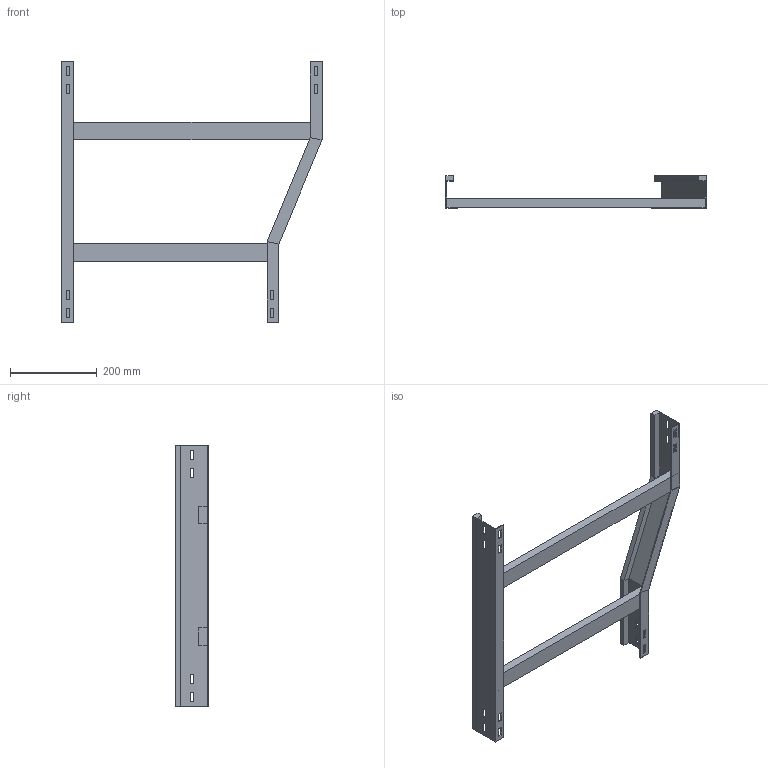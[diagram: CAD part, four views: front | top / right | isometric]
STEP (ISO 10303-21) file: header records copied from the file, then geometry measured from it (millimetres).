
FILE_DESCRIPTION (( 'STEP AP214' ), '1' );
FILE_NAME ('B2X22B5C600XX.step', '2025-09-02T17:19:28', ( '' ), ( '' ), 'SwSTEP 2.0', 'SolidWorks 2023', '' );
FILE_SCHEMA (( 'AUTOMOTIVE_DESIGN' ));
Length unit declared in the file: millimetre
Products named in the file (5): SPONDA RID. SX 600-500_H75; TRAVERSINO_600; SPONDA DRITTA_H75; TRAVERSINO_500; B2X22B5C600XX
Assembly tree (4 placements, depth 2):
  B2X22B5C600XX
    SPONDA DRITTA_H75
    TRAVERSINO_500
    TRAVERSINO_600
    SPONDA RID. SX 600-500_H75
Bounding box: 600 x 75 x 600 mm (x, y, z)
Volume: 1357832 mm3; surface area: 421788 mm2
Topology: 4 solids, 4 shells, 112 faces, 296 edges, 192 vertices
Faces by surface type: plane 112
Entity records: 3590 total; most frequent: CARTESIAN_POINT 607, ORIENTED_EDGE 592, DIRECTION 534, LINE 296, EDGE_CURVE 296, VECTOR 296, VERTEX_POINT 192, EDGE_LOOP 144
